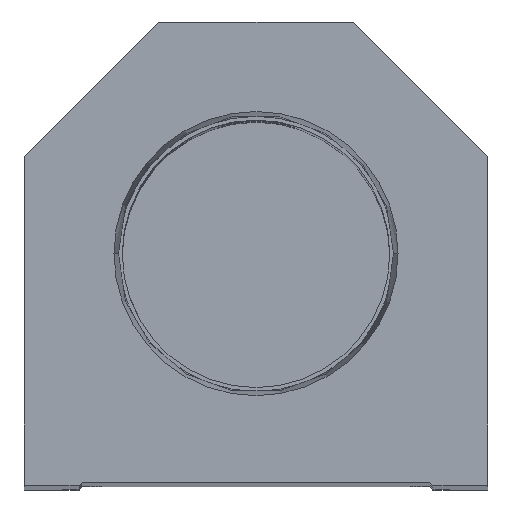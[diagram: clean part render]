
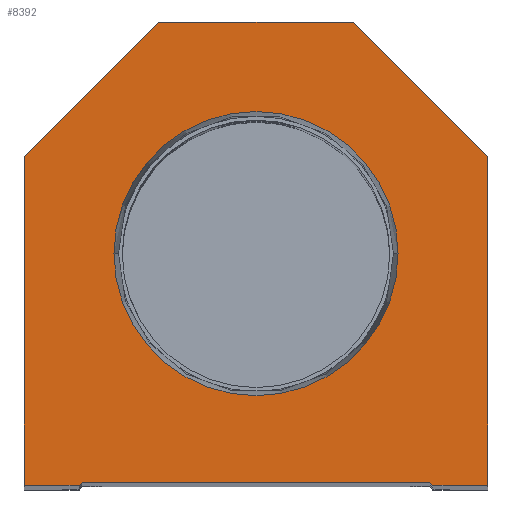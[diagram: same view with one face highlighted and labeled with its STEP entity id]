
A CAD part, top view. The second image highlights one B-rep face of the part: STEP entity #8392.
In plain terms, the highlighted planar face has unit normal (0, 0, 1).
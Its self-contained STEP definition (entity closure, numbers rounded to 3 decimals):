
#365 = ORIENTED_EDGE ( 'NONE', *, *, #1856, .T. ) ;
#1549 = ORIENTED_EDGE ( 'NONE', *, *, #13130, .T. ) ;
#1698 = LINE ( 'NONE', #14573, #17003 ) ;
#1820 = ORIENTED_EDGE ( 'NONE', *, *, #17123, .T. ) ;
#1856 = EDGE_CURVE ( 'NONE', #4691, #12483, #14192, .T. ) ;
#1976 = CARTESIAN_POINT ( 'NONE',  ( 0., 38.1, 0. ) ) ;
#2088 = CARTESIAN_POINT ( 'NONE',  ( -28.6, 0.5, 0. ) ) ;
#2488 = VERTEX_POINT ( 'NONE', #2982 ) ;
#2905 = ORIENTED_EDGE ( 'NONE', *, *, #4182, .T. ) ;
#2977 = CIRCLE ( 'NONE', #16460, 23.374 ) ;
#2982 = CARTESIAN_POINT ( 'NONE',  ( -38.1, 54.1, 0. ) ) ;
#3006 = VERTEX_POINT ( 'NONE', #2088 ) ;
#3238 = VECTOR ( 'NONE', #16501, 1000. ) ;
#3264 = DIRECTION ( 'NONE',  ( 0., 0., 1. ) ) ;
#3312 = ORIENTED_EDGE ( 'NONE', *, *, #17679, .T. ) ;
#4064 = EDGE_LOOP ( 'NONE', ( #12187, #22659 ) ) ;
#4182 = EDGE_CURVE ( 'NONE', #8393, #2488, #16006, .T. ) ;
#4296 = ORIENTED_EDGE ( 'NONE', *, *, #17709, .T. ) ;
#4667 = CARTESIAN_POINT ( 'NONE',  ( 23.374, 38.1, 0. ) ) ;
#4691 = VERTEX_POINT ( 'NONE', #4801 ) ;
#4801 = CARTESIAN_POINT ( 'NONE',  ( 38.1, 0., 0. ) ) ;
#5439 = ORIENTED_EDGE ( 'NONE', *, *, #15054, .T. ) ;
#5644 = AXIS2_PLACEMENT_3D ( 'NONE', #16282, #3264, #23609 ) ;
#6150 = EDGE_CURVE ( 'NONE', #7590, #8393, #14462, .T. ) ;
#6487 = ORIENTED_EDGE ( 'NONE', *, *, #11202, .T. ) ;
#6820 = CARTESIAN_POINT ( 'NONE',  ( 38.1, 0., 0. ) ) ;
#6868 = VERTEX_POINT ( 'NONE', #13447 ) ;
#6881 = FACE_OUTER_BOUND ( 'NONE', #9026, .T. ) ;
#7037 = VECTOR ( 'NONE', #12628, 1000. ) ;
#7117 = CARTESIAN_POINT ( 'NONE',  ( -16., 76.2, 0. ) ) ;
#7571 = CARTESIAN_POINT ( 'NONE',  ( -14.55, 14.55, 0. ) ) ;
#7590 = VERTEX_POINT ( 'NONE', #14161 ) ;
#7831 = DIRECTION ( 'NONE',  ( 1., 0., 0. ) ) ;
#8048 = CARTESIAN_POINT ( 'NONE',  ( -28.6, 0.5, 0. ) ) ;
#8201 = DIRECTION ( 'NONE',  ( 1., 0., 0. ) ) ;
#8392 = ADVANCED_FACE ( 'NONE', ( #23379, #6881 ), #8925, .T. ) ;
#8393 = VERTEX_POINT ( 'NONE', #7117 ) ;
#8600 = CARTESIAN_POINT ( 'NONE',  ( 38.1, 54.1, 0. ) ) ;
#8745 = CIRCLE ( 'NONE', #11844, 23.374 ) ;
#8925 = PLANE ( 'NONE',  #5644 ) ;
#9026 = EDGE_LOOP ( 'NONE', ( #9560, #3312, #4296, #6487, #1820, #365, #1549, #16234, #2905, #5439 ) ) ;
#9307 = CARTESIAN_POINT ( 'NONE',  ( 38.1, 54.1, 0. ) ) ;
#9317 = DIRECTION ( 'NONE',  ( 1., 0., 0. ) ) ;
#9385 = DIRECTION ( 'NONE',  ( 0., -1., 0. ) ) ;
#9560 = ORIENTED_EDGE ( 'NONE', *, *, #22330, .T. ) ;
#10108 = LINE ( 'NONE', #8048, #22842 ) ;
#10544 = CARTESIAN_POINT ( 'NONE',  ( 29.1, 0., 0. ) ) ;
#10562 = DIRECTION ( 'NONE',  ( 0.707, -0.707, 0. ) ) ;
#11089 = VECTOR ( 'NONE', #10562, 1000. ) ;
#11092 = VERTEX_POINT ( 'NONE', #4667 ) ;
#11202 = EDGE_CURVE ( 'NONE', #6868, #21470, #21657, .T. ) ;
#11844 = AXIS2_PLACEMENT_3D ( 'NONE', #20730, #13406, #7831 ) ;
#12187 = ORIENTED_EDGE ( 'NONE', *, *, #20827, .F. ) ;
#12432 = LINE ( 'NONE', #23127, #23345 ) ;
#12483 = VERTEX_POINT ( 'NONE', #9307 ) ;
#12502 = LINE ( 'NONE', #21755, #7037 ) ;
#12517 = CARTESIAN_POINT ( 'NONE',  ( 14.55, 14.55, 0. ) ) ;
#12628 = DIRECTION ( 'NONE',  ( 1., 0., 0. ) ) ;
#13130 = EDGE_CURVE ( 'NONE', #12483, #7590, #17788, .T. ) ;
#13406 = DIRECTION ( 'NONE',  ( 0., 0., 1. ) ) ;
#13447 = CARTESIAN_POINT ( 'NONE',  ( 28.6, 0.5, 0. ) ) ;
#13717 = VERTEX_POINT ( 'NONE', #17590 ) ;
#14161 = CARTESIAN_POINT ( 'NONE',  ( 16., 76.2, 0. ) ) ;
#14192 = LINE ( 'NONE', #6820, #18098 ) ;
#14462 = LINE ( 'NONE', #18080, #3238 ) ;
#14573 = CARTESIAN_POINT ( 'NONE',  ( -38.1, 0., 0. ) ) ;
#15054 = EDGE_CURVE ( 'NONE', #2488, #13717, #1698, .T. ) ;
#16006 = LINE ( 'NONE', #16128, #18225 ) ;
#16128 = CARTESIAN_POINT ( 'NONE',  ( -38.1, 54.1, 0. ) ) ;
#16234 = ORIENTED_EDGE ( 'NONE', *, *, #6150, .T. ) ;
#16282 = CARTESIAN_POINT ( 'NONE',  ( 0., 0., 0. ) ) ;
#16460 = AXIS2_PLACEMENT_3D ( 'NONE', #1976, #22065, #9317 ) ;
#16501 = DIRECTION ( 'NONE',  ( -1., 0., 0. ) ) ;
#16748 = LINE ( 'NONE', #7571, #21324 ) ;
#16946 = CARTESIAN_POINT ( 'NONE',  ( -29.1, 0., 0. ) ) ;
#17003 = VECTOR ( 'NONE', #9385, 1000. ) ;
#17099 = DIRECTION ( 'NONE',  ( 1., 0., 0. ) ) ;
#17123 = EDGE_CURVE ( 'NONE', #21470, #4691, #12502, .T. ) ;
#17590 = CARTESIAN_POINT ( 'NONE',  ( -38.1, 0., 0. ) ) ;
#17679 = EDGE_CURVE ( 'NONE', #20291, #3006, #16748, .T. ) ;
#17709 = EDGE_CURVE ( 'NONE', #3006, #6868, #10108, .T. ) ;
#17788 = LINE ( 'NONE', #8600, #21530 ) ;
#18080 = CARTESIAN_POINT ( 'NONE',  ( 16., 76.2, 0. ) ) ;
#18098 = VECTOR ( 'NONE', #21051, 1000. ) ;
#18225 = VECTOR ( 'NONE', #21426, 1000. ) ;
#19705 = DIRECTION ( 'NONE',  ( -0.707, 0.707, 0. ) ) ;
#20021 = DIRECTION ( 'NONE',  ( 0.707, 0.707, 0. ) ) ;
#20291 = VERTEX_POINT ( 'NONE', #16946 ) ;
#20730 = CARTESIAN_POINT ( 'NONE',  ( 0., 38.1, 0. ) ) ;
#20827 = EDGE_CURVE ( 'NONE', #11092, #22360, #2977, .T. ) ;
#21051 = DIRECTION ( 'NONE',  ( 0., 1., 0. ) ) ;
#21221 = CARTESIAN_POINT ( 'NONE',  ( -23.374, 38.1, 0. ) ) ;
#21324 = VECTOR ( 'NONE', #20021, 1000. ) ;
#21426 = DIRECTION ( 'NONE',  ( -0.707, -0.707, 0. ) ) ;
#21470 = VERTEX_POINT ( 'NONE', #10544 ) ;
#21530 = VECTOR ( 'NONE', #19705, 1000. ) ;
#21657 = LINE ( 'NONE', #12517, #11089 ) ;
#21755 = CARTESIAN_POINT ( 'NONE',  ( 28.6, 0., 0. ) ) ;
#22065 = DIRECTION ( 'NONE',  ( 0., 0., 1. ) ) ;
#22330 = EDGE_CURVE ( 'NONE', #13717, #20291, #12432, .T. ) ;
#22360 = VERTEX_POINT ( 'NONE', #21221 ) ;
#22659 = ORIENTED_EDGE ( 'NONE', *, *, #22910, .F. ) ;
#22842 = VECTOR ( 'NONE', #17099, 1000. ) ;
#22910 = EDGE_CURVE ( 'NONE', #22360, #11092, #8745, .T. ) ;
#23127 = CARTESIAN_POINT ( 'NONE',  ( -28.6, 0., 0. ) ) ;
#23345 = VECTOR ( 'NONE', #8201, 1000. ) ;
#23379 = FACE_BOUND ( 'NONE', #4064, .T. ) ;
#23609 = DIRECTION ( 'NONE',  ( 1., 0., 0. ) ) ;
